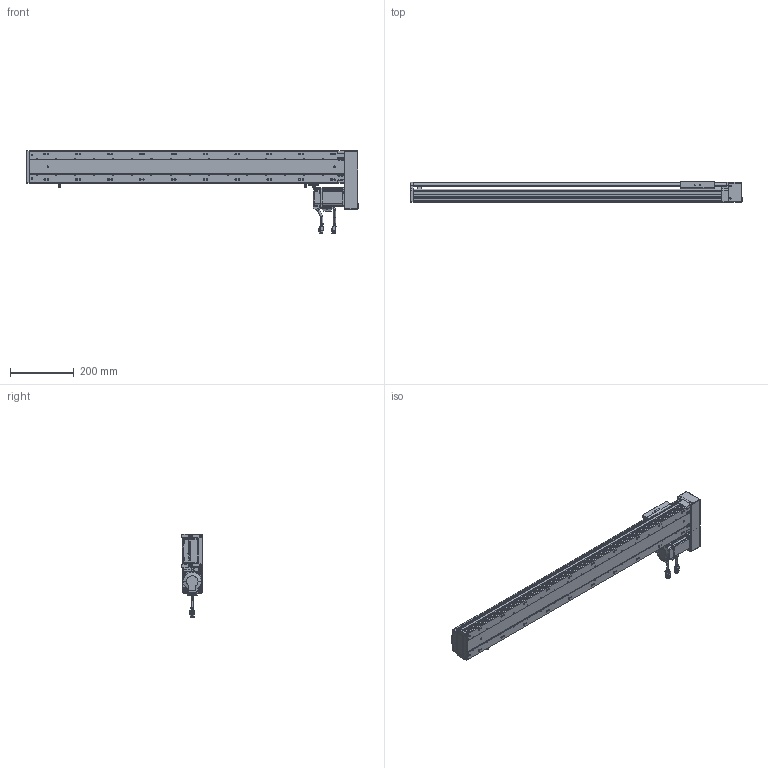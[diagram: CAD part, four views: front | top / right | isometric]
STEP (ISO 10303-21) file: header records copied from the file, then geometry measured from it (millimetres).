
FILE_DESCRIPTION (( 'STEP AP203' ), '1' );
FILE_NAME ('RY100S-L1620-300-RK(15双轨).SLDASM_800.step', '2021-02-20T08:48:34', ( '盈信电脑' ), ( '东莞市道滘镇水果街19号' ), 'SwSTEP 2.0', 'SolidWorks 2012', '' );
FILE_SCHEMA (( 'CONFIG_CONTROL_DESIGN' ));
Length unit declared in the file: millimetre
Products named in the file (25): RY100S-L1620-300-RK(15邧寢).SLDASM_800; RY100S铝滑块（15双轨单滑块）底组装导轨; 3M30喘15遵; 蚾饜极1^RY100S-L1620-300-RK(15邧寢); 侂狟200W萇儂; 7; 5; 6; 4; 1; 肮祭湍3M遵15笚酗282; 3; 2; RY100S左右折电机罩（15双轨）; RY80肮祭湍芢雄輸; RY100S转折电机安装板（15双轨）; RY80肮祭湍覃踡啣; RY100綴裔啣; 滅袉蝶18-24; RY100S转折电机端支撑座(15双轨); RY100俋离覜茼え; 覜茼ん672; RY100S-300-LK转折型材上盖(15双轨)_800; 滅袉蝶18-10; RY100S-350-LK型材底座(低组15双轨)_800
Assembly tree (27 placements, depth 4):
  RY100S-L1620-300-RK(15邧寢).SLDASM_800
    RY100S-350-LK型材底座(低组15双轨)_800
    RY100S-300-LK转折型材上盖(15双轨)_800
    覜茼ん672  x3
    滅袉蝶18-10
    RY100俋离覜茼え
    RY100S转折电机端支撑座(15双轨)
    滅袉蝶18-24
    RY100綴裔啣
    蚾饜极1^RY100S-L1620-300-RK(15邧寢)
      RY80肮祭湍覃踡啣
      RY80肮祭湍芢雄輸  x2
      RY100S左右折电机罩（15双轨）
      RY100S转折电机安装板（15双轨）
      肮祭湍3M遵15笚酗282
      侂狟200W萇儂
        1
        2
        3
        4
        5
        6
        7
      3M30喘15遵
    RY100S铝滑块（15双轨单滑块）底组装导轨
Bounding box: 1042.5 x 65 x 263.3 mm (x, y, z)
Volume: 2412027.7 mm3; surface area: 955596.5 mm2
Topology: 25 solids, 25 shells, 3352 faces, 9061 edges, 5846 vertices
Faces by surface type: plane 1742, cylinder 1327, cone 169, bspline 114
Entity records: 109657 total; most frequent: CARTESIAN_POINT 27560, ORIENTED_EDGE 16826, DIRECTION 16210, EDGE_CURVE 8413, AXIS2_PLACEMENT_3D 5557, VERTEX_POINT 5482, VECTOR 5096, LINE 5096
